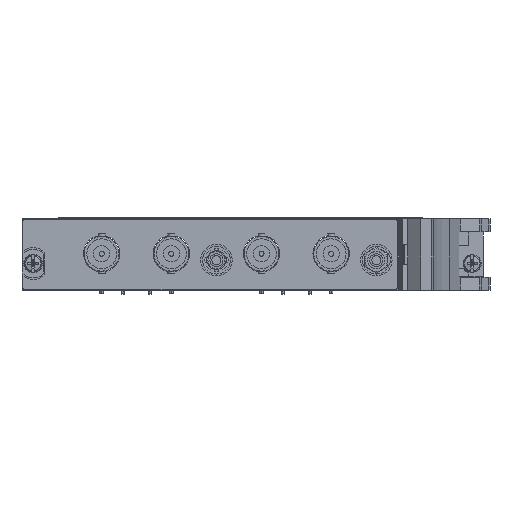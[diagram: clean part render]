
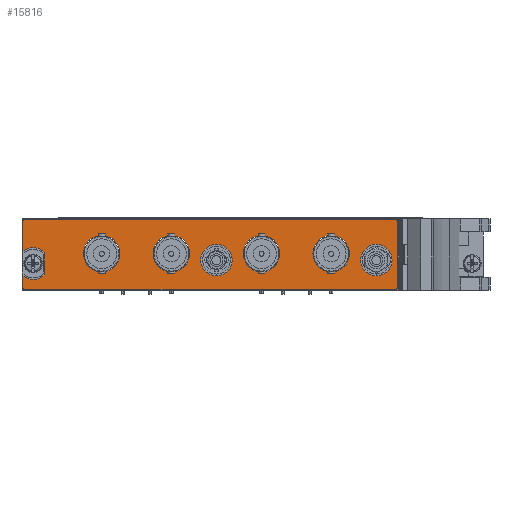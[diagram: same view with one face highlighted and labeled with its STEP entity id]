
A CAD part, left-side view. The second image highlights one B-rep face of the part: STEP entity #15816.
In plain terms, the highlighted planar face has unit normal (-1, 0, 0).
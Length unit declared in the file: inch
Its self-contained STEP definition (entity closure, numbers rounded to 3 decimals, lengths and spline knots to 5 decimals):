
#6317=CARTESIAN_POINT('',(-0.215,0.53465,0.665));
#6318=DIRECTION('',(-1.,0.,0.));
#6319=DIRECTION('',(0.,0.,1.));
#6320=AXIS2_PLACEMENT_3D('',#6317,#6318,#6319);
#6322=DIRECTION('',(0.,1.,0.));
#6323=VECTOR('',#6322,4.07);
#6324=CARTESIAN_POINT('',(-0.215,-3.53535,0.685));
#6325=LINE('',#6324,#6323);
#6326=CARTESIAN_POINT('',(-0.215,-3.53535,0.665));
#6327=DIRECTION('',(-1.,0.,0.));
#6328=DIRECTION('',(0.,-1.,0.));
#6329=AXIS2_PLACEMENT_3D('',#6326,#6327,#6328);
#6331=DIRECTION('',(0.,0.,1.));
#6332=VECTOR('',#6331,0.728);
#6333=CARTESIAN_POINT('',(-0.215,-3.55535,-0.063));
#6334=LINE('',#6333,#6332);
#6335=CARTESIAN_POINT('',(-0.215,-3.53535,-0.063));
#6336=DIRECTION('',(-1.,0.,0.));
#6337=DIRECTION('',(0.,0.,-1.));
#6338=AXIS2_PLACEMENT_3D('',#6335,#6336,#6337);
#6340=DIRECTION('',(0.,-1.,0.));
#6341=VECTOR('',#6340,4.07);
#6342=CARTESIAN_POINT('',(-0.215,0.53465,-0.083));
#6343=LINE('',#6342,#6341);
#6344=CARTESIAN_POINT('',(-0.215,0.53465,-0.063));
#6345=DIRECTION('',(-1.,0.,0.));
#6346=DIRECTION('',(0.,1.,0.));
#6347=AXIS2_PLACEMENT_3D('',#6344,#6345,#6346);
#6349=DIRECTION('',(0.,0.,-1.));
#6350=VECTOR('',#6349,0.12953);
#6351=CARTESIAN_POINT('',(-0.215,0.55465,0.06653));
#6352=LINE('',#6351,#6350);
#6353=CARTESIAN_POINT('',(-0.215,0.44265,0.201));
#6354=DIRECTION('',(1.,0.,0.));
#6355=DIRECTION('',(0.,-0.737,-0.676));
#6356=AXIS2_PLACEMENT_3D('',#6353,#6354,#6355);
#6358=DIRECTION('',(0.,0.,-1.));
#6359=VECTOR('',#6358,0.23651);
#6360=CARTESIAN_POINT('',(-0.215,0.31365,0.31925));
#6361=LINE('',#6360,#6359);
#6362=CARTESIAN_POINT('',(-0.215,0.44265,0.201));
#6363=DIRECTION('',(1.,0.,0.));
#6364=DIRECTION('',(0.,0.64,0.768));
#6365=AXIS2_PLACEMENT_3D('',#6362,#6363,#6364);
#6367=DIRECTION('',(0.,0.,-1.));
#6368=VECTOR('',#6367,0.32953);
#6369=CARTESIAN_POINT('',(-0.215,0.55465,0.665));
#6370=LINE('',#6369,#6368);
#6371=CARTESIAN_POINT('',(-0.215,-0.31,0.309));
#6372=DIRECTION('',(-1.,0.,0.));
#6373=DIRECTION('',(0.,0.,1.));
#6374=AXIS2_PLACEMENT_3D('',#6371,#6372,#6373);
#6376=CARTESIAN_POINT('',(-0.215,-0.31,0.309));
#6377=DIRECTION('',(-1.,0.,0.));
#6378=DIRECTION('',(0.,0.,-1.));
#6379=AXIS2_PLACEMENT_3D('',#6376,#6377,#6378);
#6381=CARTESIAN_POINT('',(-0.215,-1.075,0.309));
#6382=DIRECTION('',(-1.,0.,0.));
#6383=DIRECTION('',(0.,0.,1.));
#6384=AXIS2_PLACEMENT_3D('',#6381,#6382,#6383);
#6386=CARTESIAN_POINT('',(-0.215,-1.075,0.309));
#6387=DIRECTION('',(-1.,0.,0.));
#6388=DIRECTION('',(0.,0.,-1.));
#6389=AXIS2_PLACEMENT_3D('',#6386,#6387,#6388);
#6391=CARTESIAN_POINT('',(-0.215,-2.065,0.309));
#6392=DIRECTION('',(-1.,0.,0.));
#6393=DIRECTION('',(0.,0.,1.));
#6394=AXIS2_PLACEMENT_3D('',#6391,#6392,#6393);
#6396=CARTESIAN_POINT('',(-0.215,-2.065,0.309));
#6397=DIRECTION('',(-1.,0.,0.));
#6398=DIRECTION('',(0.,0.,-1.));
#6399=AXIS2_PLACEMENT_3D('',#6396,#6397,#6398);
#6401=CARTESIAN_POINT('',(-0.215,-2.83,0.309));
#6402=DIRECTION('',(-1.,0.,0.));
#6403=DIRECTION('',(0.,0.,1.));
#6404=AXIS2_PLACEMENT_3D('',#6401,#6402,#6403);
#6406=CARTESIAN_POINT('',(-0.215,-2.83,0.309));
#6407=DIRECTION('',(-1.,0.,0.));
#6408=DIRECTION('',(0.,0.,-1.));
#6409=AXIS2_PLACEMENT_3D('',#6406,#6407,#6408);
#6411=CARTESIAN_POINT('',(-0.215,-3.325,0.239));
#6412=DIRECTION('',(-1.,0.,0.));
#6413=DIRECTION('',(0.,0.,1.));
#6414=AXIS2_PLACEMENT_3D('',#6411,#6412,#6413);
#6416=CARTESIAN_POINT('',(-0.215,-3.325,0.239));
#6417=DIRECTION('',(-1.,0.,0.));
#6418=DIRECTION('',(0.,0.,-1.));
#6419=AXIS2_PLACEMENT_3D('',#6416,#6417,#6418);
#6421=CARTESIAN_POINT('',(-0.215,-1.57,0.239));
#6422=DIRECTION('',(-1.,0.,0.));
#6423=DIRECTION('',(0.,0.,1.));
#6424=AXIS2_PLACEMENT_3D('',#6421,#6422,#6423);
#6426=CARTESIAN_POINT('',(-0.215,-1.57,0.239));
#6427=DIRECTION('',(-1.,0.,0.));
#6428=DIRECTION('',(0.,0.,-1.));
#6429=AXIS2_PLACEMENT_3D('',#6426,#6427,#6428);
#15276=CARTESIAN_POINT('',(-0.215,0.53465,0.685));
#15277=CARTESIAN_POINT('',(-0.215,0.55465,0.665));
#15278=VERTEX_POINT('',#15276);
#15279=VERTEX_POINT('',#15277);
#15280=CARTESIAN_POINT('',(-0.215,0.55465,0.33547));
#15281=VERTEX_POINT('',#15280);
#15282=CARTESIAN_POINT('',(-0.215,0.31365,0.31925));
#15283=VERTEX_POINT('',#15282);
#15284=CARTESIAN_POINT('',(-0.215,0.31365,0.08275));
#15285=VERTEX_POINT('',#15284);
#15286=CARTESIAN_POINT('',(-0.215,0.55465,0.06653));
#15287=VERTEX_POINT('',#15286);
#15288=CARTESIAN_POINT('',(-0.215,0.55465,-0.063));
#15289=VERTEX_POINT('',#15288);
#15290=CARTESIAN_POINT('',(-0.215,0.53465,-0.083));
#15291=VERTEX_POINT('',#15290);
#15292=CARTESIAN_POINT('',(-0.215,-3.53535,-0.083));
#15293=VERTEX_POINT('',#15292);
#15294=CARTESIAN_POINT('',(-0.215,-3.55535,-0.063));
#15295=VERTEX_POINT('',#15294);
#15296=CARTESIAN_POINT('',(-0.215,-3.55535,0.665));
#15297=VERTEX_POINT('',#15296);
#15298=CARTESIAN_POINT('',(-0.215,-3.53535,0.685));
#15299=VERTEX_POINT('',#15298);
#15316=CARTESIAN_POINT('',(-0.215,-0.31,0.509));
#15317=CARTESIAN_POINT('',(-0.215,-0.31,0.109));
#15318=VERTEX_POINT('',#15316);
#15319=VERTEX_POINT('',#15317);
#15320=CARTESIAN_POINT('',(-0.215,-1.075,0.509));
#15321=CARTESIAN_POINT('',(-0.215,-1.075,0.109));
#15322=VERTEX_POINT('',#15320);
#15323=VERTEX_POINT('',#15321);
#15324=CARTESIAN_POINT('',(-0.215,-2.065,0.509));
#15325=CARTESIAN_POINT('',(-0.215,-2.065,0.109));
#15326=VERTEX_POINT('',#15324);
#15327=VERTEX_POINT('',#15325);
#15328=CARTESIAN_POINT('',(-0.215,-2.83,0.509));
#15329=CARTESIAN_POINT('',(-0.215,-2.83,0.109));
#15330=VERTEX_POINT('',#15328);
#15331=VERTEX_POINT('',#15329);
#15332=CARTESIAN_POINT('',(-0.215,-3.325,0.412));
#15333=CARTESIAN_POINT('',(-0.215,-3.325,0.066));
#15334=VERTEX_POINT('',#15332);
#15335=VERTEX_POINT('',#15333);
#15336=CARTESIAN_POINT('',(-0.215,-1.57,0.412));
#15337=CARTESIAN_POINT('',(-0.215,-1.57,0.066));
#15338=VERTEX_POINT('',#15336);
#15339=VERTEX_POINT('',#15337);
#15751=CARTESIAN_POINT('',(-0.215,0.44265,0.201));
#15752=DIRECTION('',(-1.,0.,0.));
#15753=DIRECTION('',(0.,0.,1.));
#15754=AXIS2_PLACEMENT_3D('',#15751,#15752,#15753);
#15755=PLANE('',#15754);
#15756=ORIENTED_EDGE('',*,*,#15744,.F.);
#15757=ORIENTED_EDGE('',*,*,#15641,.F.);
#15759=ORIENTED_EDGE('',*,*,#15758,.F.);
#15761=ORIENTED_EDGE('',*,*,#15760,.F.);
#15763=ORIENTED_EDGE('',*,*,#15762,.F.);
#15765=ORIENTED_EDGE('',*,*,#15764,.F.);
#15767=ORIENTED_EDGE('',*,*,#15766,.F.);
#15769=ORIENTED_EDGE('',*,*,#15768,.F.);
#15771=ORIENTED_EDGE('',*,*,#15770,.F.);
#15773=ORIENTED_EDGE('',*,*,#15772,.F.);
#15775=ORIENTED_EDGE('',*,*,#15774,.F.);
#15777=ORIENTED_EDGE('',*,*,#15776,.F.);
#15778=EDGE_LOOP('',(#15756,#15757,#15759,#15761,#15763,#15765,#15767,#15769,
#15771,#15773,#15775,#15777));
#15779=FACE_OUTER_BOUND('',#15778,.F.);
#15781=ORIENTED_EDGE('',*,*,#15780,.T.);
#15783=ORIENTED_EDGE('',*,*,#15782,.T.);
#15784=EDGE_LOOP('',(#15781,#15783));
#15785=FACE_BOUND('',#15784,.F.);
#15787=ORIENTED_EDGE('',*,*,#15786,.T.);
#15789=ORIENTED_EDGE('',*,*,#15788,.T.);
#15790=EDGE_LOOP('',(#15787,#15789));
#15791=FACE_BOUND('',#15790,.F.);
#15793=ORIENTED_EDGE('',*,*,#15792,.T.);
#15795=ORIENTED_EDGE('',*,*,#15794,.T.);
#15796=EDGE_LOOP('',(#15793,#15795));
#15797=FACE_BOUND('',#15796,.F.);
#15799=ORIENTED_EDGE('',*,*,#15798,.T.);
#15801=ORIENTED_EDGE('',*,*,#15800,.T.);
#15802=EDGE_LOOP('',(#15799,#15801));
#15803=FACE_BOUND('',#15802,.F.);
#15805=ORIENTED_EDGE('',*,*,#15804,.T.);
#15807=ORIENTED_EDGE('',*,*,#15806,.T.);
#15808=EDGE_LOOP('',(#15805,#15807));
#15809=FACE_BOUND('',#15808,.F.);
#15811=ORIENTED_EDGE('',*,*,#15810,.T.);
#15813=ORIENTED_EDGE('',*,*,#15812,.T.);
#15814=EDGE_LOOP('',(#15811,#15813));
#15815=FACE_BOUND('',#15814,.F.);
#15816=ADVANCED_FACE('',(#15779,#15785,#15791,#15797,#15803,#15809,#15815),
#15755,.T.);
#6321=CIRCLE('',#6320,0.02);
#6330=CIRCLE('',#6329,0.02);
#6339=CIRCLE('',#6338,0.02);
#6348=CIRCLE('',#6347,0.02);
#6357=CIRCLE('',#6356,0.175);
#6366=CIRCLE('',#6365,0.175);
#6375=CIRCLE('',#6374,0.2);
#6380=CIRCLE('',#6379,0.2);
#6385=CIRCLE('',#6384,0.2);
#6390=CIRCLE('',#6389,0.2);
#6395=CIRCLE('',#6394,0.2);
#6400=CIRCLE('',#6399,0.2);
#6405=CIRCLE('',#6404,0.2);
#6410=CIRCLE('',#6409,0.2);
#6415=CIRCLE('',#6414,0.173);
#6420=CIRCLE('',#6419,0.173);
#6425=CIRCLE('',#6424,0.173);
#6430=CIRCLE('',#6429,0.173);
#15641=EDGE_CURVE('',#15299,#15278,#6325,.T.);
#15744=EDGE_CURVE('',#15278,#15279,#6321,.T.);
#15758=EDGE_CURVE('',#15297,#15299,#6330,.T.);
#15760=EDGE_CURVE('',#15295,#15297,#6334,.T.);
#15762=EDGE_CURVE('',#15293,#15295,#6339,.T.);
#15764=EDGE_CURVE('',#15291,#15293,#6343,.T.);
#15766=EDGE_CURVE('',#15289,#15291,#6348,.T.);
#15768=EDGE_CURVE('',#15287,#15289,#6352,.T.);
#15770=EDGE_CURVE('',#15285,#15287,#6357,.T.);
#15772=EDGE_CURVE('',#15283,#15285,#6361,.T.);
#15774=EDGE_CURVE('',#15281,#15283,#6366,.T.);
#15776=EDGE_CURVE('',#15279,#15281,#6370,.T.);
#15780=EDGE_CURVE('',#15318,#15319,#6375,.T.);
#15782=EDGE_CURVE('',#15319,#15318,#6380,.T.);
#15786=EDGE_CURVE('',#15322,#15323,#6385,.T.);
#15788=EDGE_CURVE('',#15323,#15322,#6390,.T.);
#15792=EDGE_CURVE('',#15326,#15327,#6395,.T.);
#15794=EDGE_CURVE('',#15327,#15326,#6400,.T.);
#15798=EDGE_CURVE('',#15330,#15331,#6405,.T.);
#15800=EDGE_CURVE('',#15331,#15330,#6410,.T.);
#15804=EDGE_CURVE('',#15334,#15335,#6415,.T.);
#15806=EDGE_CURVE('',#15335,#15334,#6420,.T.);
#15810=EDGE_CURVE('',#15338,#15339,#6425,.T.);
#15812=EDGE_CURVE('',#15339,#15338,#6430,.T.);
